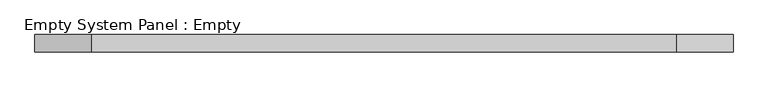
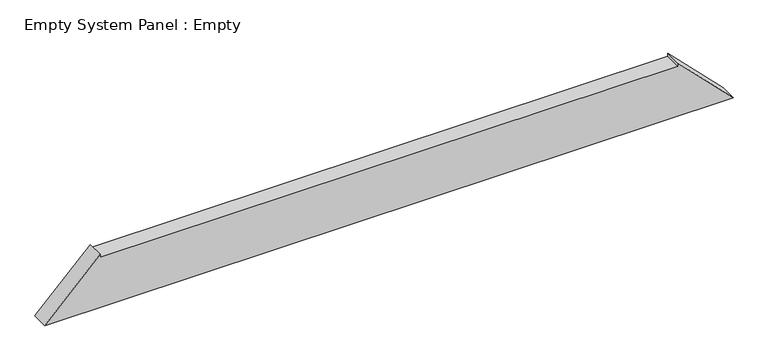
"""IFC4 building model written with IfcOpenShell, lengths in millimetres: plate geometry, Empty System Panel : Empty."""

from ifc_helpers import new_model, si_unit, frame, origin, place, context, project, spatial, polyline, outline, extrude, source, transform, mapped, element, save


def empty_system_panel_empty_a86050da(model_context):
    return source(origin(), model_context, "Body", "SweptSolid", [
        extrude(outline(polyline([(0.0, -2026.0976066), (0.0, 2026.0976066), (330.0, 1699.7486101), (310.0, 1699.7486101), (310.0, -1699.7486101), (330.0, -1699.7486101), (0.0, -2026.0976066)])), frame((0.0, -50.0, 0.0), z_axis=(0.0, 1.0, 0.0), x_axis=(0.0, 0.0, 1.0)), (0.0, 0.0, 1.0), 100.0),
    ])


if __name__ == "__main__":
    model = new_model("IFC4")
    model_context = context("Model", 3, world=origin())
    ifc_project = project(units=[si_unit("LENGTHUNIT", "METRE", prefix="MILLI")], contexts=[model_context])
    site = spatial("IfcSite", under=ifc_project)
    building = spatial("IfcBuilding", under=site)
    placement = place(None, origin())
    empty_system_panel_empty_shape = empty_system_panel_empty_a86050da(model_context)
    element("IfcPlate", 1, ObjectType="Empty System Panel : Empty", at=placement, inside=building, context=model_context, shape_type="MappedRepresentation", body=[
        mapped(empty_system_panel_empty_shape, transform((0.0, 0.0, 0.0), x_axis=(1.0, 0.0, 0.0), y_axis=(0.0, 1.0, 0.0), z_axis=(0.0, 0.0, 1.0))),
    ])
    save(model, "model.ifc")
